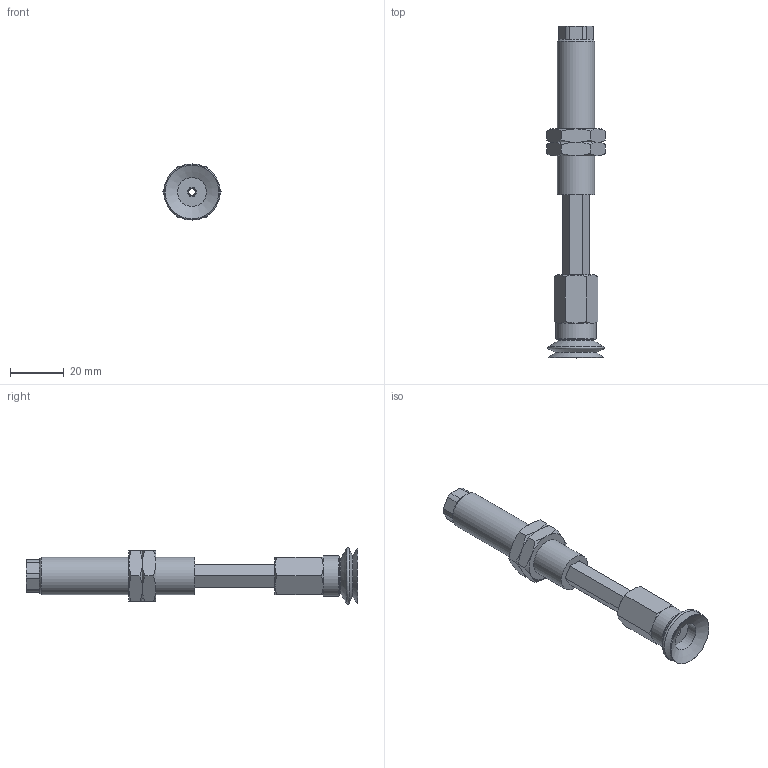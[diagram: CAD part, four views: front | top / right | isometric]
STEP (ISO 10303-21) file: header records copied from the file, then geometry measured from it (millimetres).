
FILE_DESCRIPTION(('STEP AP203'),'1');
FILE_NAME('.stp','2025-08-27T06:58:05',(' '),(' '),'Spatial InterOp 3D',' ',' ');
FILE_SCHEMA(('CONFIG_CONTROL_DESIGN'));
Length unit declared in the file: millimetre
Products named in the file (7): BNABPJTH-20-30-※; ADAPTER; NAPBTH-20-30-MBODY; Adapter-20-NAPJ; NAPJH-20-30-NUT; NAPJTH-20-30-FBODY; BPJG-20-※
Assembly tree (7 placements, depth 2):
  BNABPJTH-20-30-※
    ADAPTER
    NAPBTH-20-30-MBODY
    Adapter-20-NAPJ
    NAPJH-20-30-NUT  x2
    NAPJTH-20-30-FBODY
    BPJG-20-※
Bounding box: 21.94 x 124 x 21 mm (x, y, z)
Volume: 17267.6 mm3; surface area: 13625.3 mm2
Topology: 7 solids, 7 shells, 137 faces, 302 edges, 185 vertices
Faces by surface type: plane 62, cone 49, cylinder 19, torus 7
Full cylindrical faces by diameter (mm): 2.5 x1, 3 x2, 4.134 x2, 4.6 x1, 5 x1, 10.8 x1, 11 x1, 13.188 x2, 14 x1, 15 x1
Entity records: 3524 total; most frequent: CARTESIAN_POINT 824, DIRECTION 490, ORIENTED_EDGE 432, EDGE_CURVE 216, AXIS2_PLACEMENT_3D 200, EDGE_LOOP 162, VERTEX_POINT 150, FACE_OUTER_BOUND 133
